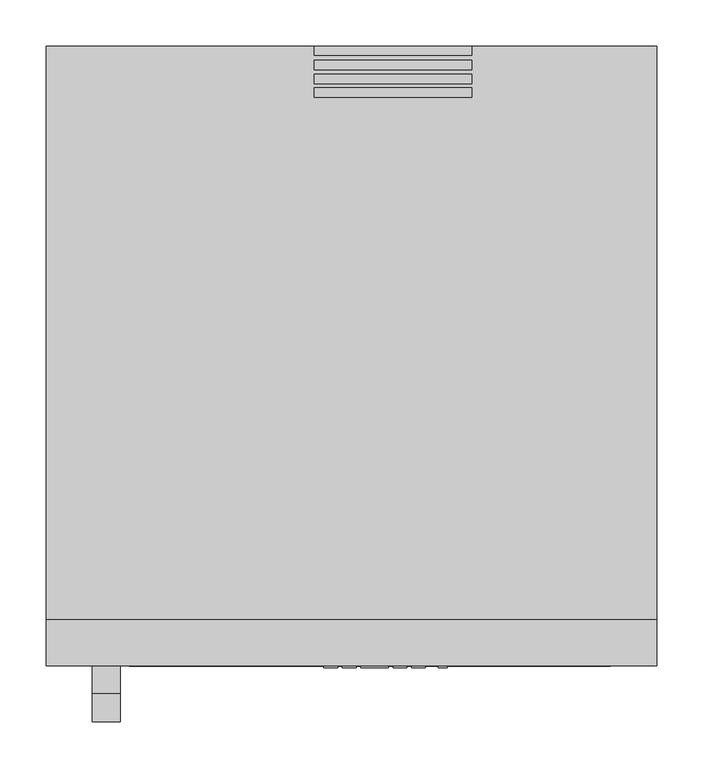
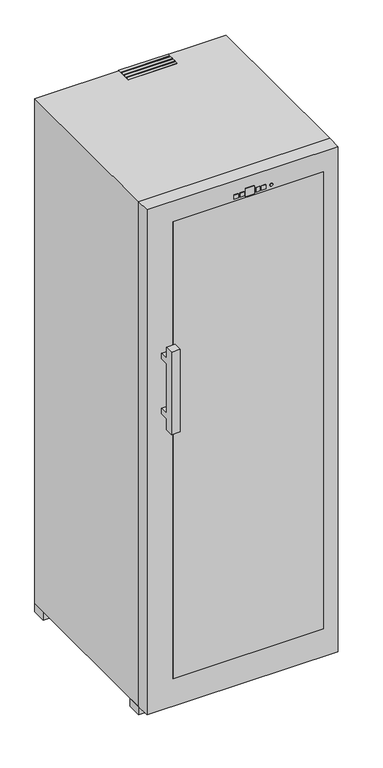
"""IFC4 building model written with IfcOpenShell, lengths in millimetres: proxy geometry, WKb : WKb 4611."""

import ifcopenshell
import ifcopenshell.guid

model = None  # the IFC model being written
_history = None  # IfcOwnerHistory: only IFC2X3 demands one
_inside = {}  # id of a spatial element -> (the spatial element, [elements in it])
_under = {}  # id of a project, library or spatial element -> (it, [spatial elements below it])
_declared = {}  # id of a project -> (the project, [libraries it declares])
_typed = {}  # id of a type object -> (the type object, [elements of that type])
_made_of = {}  # id of a material, layer set ... -> (it, [elements and type objects made of it])


def new_model(schema):
    """Start an empty IFC model of exactly this schema.

    Asked for "IFC4X3", IfcOpenShell would pick the latest addendum, in which some entities
    have other attributes; the version numbers below select the first issue.
    IFC2X3 requires an IfcOwnerHistory on every rooted entity: one is made here for all.
    """
    global model, _history
    if schema == "IFC4X3":
        model = ifcopenshell.file(schema_version=(4, 3, 0, 0))
    else:
        model = ifcopenshell.file(schema=schema)
    _inside.clear()
    _under.clear()
    _declared.clear()
    _typed.clear()
    _made_of.clear()
    _history = None
    if model.schema == "IFC2X3":
        org = make("IfcOrganization", Name="unknown")
        user = make(
            "IfcPersonAndOrganization",
            ThePerson=make("IfcPerson", FamilyName="unknown"),
            TheOrganization=org,
        )
        app = make(
            "IfcApplication",
            ApplicationDeveloper=org,
            Version="unknown",
            ApplicationFullName="unknown",
            ApplicationIdentifier="unknown",
        )
        _history = make(
            "IfcOwnerHistory",
            OwningUser=user,
            OwningApplication=app,
            ChangeAction="ADDED",
            CreationDate=0,
        )
    return model


def make(cls, **values):
    """One entity of the class cls with the attributes given. An attribute that is None is left unset."""
    return model.create_entity(
        cls, **{name: value for name, value in values.items() if value is not None}
    )


def rooted(cls, **values):
    """An entity with a GlobalId (a new one), such as an element, a storey or a relation."""
    return make(cls, GlobalId=ifcopenshell.guid.new(), OwnerHistory=_history, **values)


def si_unit(unit_type, name, prefix=None):
    """IfcSIUnit, for example si_unit("LENGTHUNIT", "METRE", prefix="MILLI")."""
    return make("IfcSIUnit", UnitType=unit_type, Prefix=prefix, Name=name)


def assignment(units):
    """IfcUnitAssignment: the units of a project."""
    return None if units is None else make("IfcUnitAssignment", Units=units)


def point(xyz):
    """IfcCartesianPoint."""
    return None if xyz is None else make("IfcCartesianPoint", Coordinates=xyz)


def direction(xyz):
    """IfcDirection."""
    return None if xyz is None else make("IfcDirection", DirectionRatios=xyz)


def frame(location, z_axis=None, x_axis=None):
    """IfcAxis2Placement3D, a coordinate frame: its origin and axes. An axis left out is left unset."""
    return make(
        "IfcAxis2Placement3D",
        Location=point(location),
        Axis=direction(z_axis),
        RefDirection=direction(x_axis),
    )


def frame_2d(location, x_axis=None):
    """IfcAxis2Placement2D, a coordinate frame in the plane: its origin and x axis."""
    return make(
        "IfcAxis2Placement2D", Location=point(location), RefDirection=direction(x_axis)
    )


def origin():
    """The frame at (0, 0, 0) with its axes left unset."""
    return frame((0.0, 0.0, 0.0))


def place(relative_to, where):
    """IfcLocalPlacement: puts the frame where relative to a parent placement (None: the world)."""
    return make(
        "IfcLocalPlacement", PlacementRelTo=relative_to, RelativePlacement=where
    )


def context(
    kind, dimensions, precision=None, world=None, true_north=None, identifier=None
):
    """IfcGeometricRepresentationContext, for example the 3D "Model" context."""
    return make(
        "IfcGeometricRepresentationContext",
        ContextIdentifier=identifier,
        ContextType=kind,
        CoordinateSpaceDimension=dimensions,
        Precision=precision,
        WorldCoordinateSystem=world,
        TrueNorth=true_north,
    )


def project(units=None, contexts=None):
    """IfcProject with its units and contexts."""
    return rooted(
        "IfcProject",
        Name="project",
        RepresentationContexts=contexts,
        UnitsInContext=assignment(units),
    )


def spatial(cls, under=None, at=None, **own):
    """A site, building, storey or space (cls), placed at a placement, below another one or the project."""
    s = rooted(cls, ObjectPlacement=at, **own)
    if under is not None:
        _under.setdefault(under.id(), (under, []))[1].append(s)
    return s


def polyline(points):
    """IfcPolyline through the points."""
    return make("IfcPolyline", Points=[point(p) for p in points])


def circle_curve(where, radius):
    """IfcCircle in the frame where."""
    return make("IfcCircle", Position=where, Radius=radius)


def trimmed(basis, trim1, trim2, sense, master):
    """IfcTrimmedCurve: the piece of a basis curve between two trims."""
    return make(
        "IfcTrimmedCurve",
        BasisCurve=basis,
        Trim1=trim1,
        Trim2=trim2,
        SenseAgreement=sense,
        MasterRepresentation=master,
    )


def segment(curve, same_sense, transition):
    """IfcCompositeCurveSegment."""
    return make(
        "IfcCompositeCurveSegment",
        Transition=transition,
        SameSense=same_sense,
        ParentCurve=curve,
    )


def composite_curve(segments, self_intersect=None):
    """IfcCompositeCurve: segments joined end to end."""
    return make("IfcCompositeCurve", Segments=segments, SelfIntersect=self_intersect)


def outline(outer, holes=None, kind="AREA"):
    """IfcArbitraryClosedProfileDef: a profile drawn as a closed curve; with holes, ...WithVoids."""
    if holes is None:
        return make("IfcArbitraryClosedProfileDef", ProfileType=kind, OuterCurve=outer)
    return make(
        "IfcArbitraryProfileDefWithVoids",
        ProfileType=kind,
        OuterCurve=outer,
        InnerCurves=holes,
    )


def extrude(swept, where, along, depth):
    """IfcExtrudedAreaSolid: the profile swept, set in the frame where, extruded along a direction by depth."""
    return make(
        "IfcExtrudedAreaSolid",
        SweptArea=swept,
        Position=where,
        ExtrudedDirection=direction(along),
        Depth=depth,
    )


def faces_of(points, faces, orient=None, outer=None):
    """IfcFace entities. A face is a list of loops; a loop is a list of indices into points, from 0.

    orient and outer hold one flag for each loop. By default every Orientation is true, the
    first loop of a face is its IfcFaceOuterBound and the others are IfcFaceBound.
    """
    made = []
    for i, loops in enumerate(faces):
        bounds = []
        for j, loop in enumerate(loops):
            is_outer = j == 0 if outer is None else outer[i][j]
            bounds.append(
                make(
                    "IfcFaceOuterBound" if is_outer else "IfcFaceBound",
                    Bound=make("IfcPolyLoop", Polygon=[points[k] for k in loop]),
                    Orientation=True if orient is None else orient[i][j],
                )
            )
        made.append(make("IfcFace", Bounds=bounds))
    return made


def faceted_brep(points, faces, orient=None, outer=None, voids=None):
    """IfcFacetedBrep: a solid bounded by flat faces; with voids (closed shells), ...WithVoids."""
    shared = [point(p) for p in points]
    hull = make("IfcClosedShell", CfsFaces=faces_of(shared, faces, orient, outer))
    if voids is None:
        return make("IfcFacetedBrep", Outer=hull)
    return make(
        "IfcFacetedBrepWithVoids",
        Outer=hull,
        Voids=[
            make(cls, CfsFaces=faces_of(shared, fs, o, b)) for cls, fs, o, b in voids
        ],
    )


def shape(context_of_items, identifier, shape_type, items):
    """IfcShapeRepresentation: the items that make up one representation, for example the "Body"."""
    return make(
        "IfcShapeRepresentation",
        ContextOfItems=context_of_items,
        RepresentationIdentifier=identifier,
        RepresentationType=shape_type,
        Items=items,
    )


def source(mapping_origin, context_of_items, identifier, shape_type, items):
    """IfcRepresentationMap: a shape defined once, which mapped items show again and again."""
    return make(
        "IfcRepresentationMap",
        MappingOrigin=mapping_origin,
        MappedRepresentation=shape(context_of_items, identifier, shape_type, items),
    )


def transform(
    local_origin,
    x_axis=None,
    y_axis=None,
    z_axis=None,
    scale=None,
    scale2=None,
    scale3=None,
    uniform=True,
):
    """IfcCartesianTransformationOperator3D, or its non-uniform kind. x_axis, y_axis, z_axis: its Axis1, 2, 3."""
    if uniform:
        return make(
            "IfcCartesianTransformationOperator3D",
            Axis1=direction(x_axis),
            Axis2=direction(y_axis),
            LocalOrigin=point(local_origin),
            Scale=scale,
            Axis3=direction(z_axis),
        )
    return make(
        "IfcCartesianTransformationOperator3DnonUniform",
        Axis1=direction(x_axis),
        Axis2=direction(y_axis),
        LocalOrigin=point(local_origin),
        Scale=scale,
        Axis3=direction(z_axis),
        Scale2=scale2,
        Scale3=scale3,
    )


def mapped(mapping_source, mapping_target):
    """IfcMappedItem: shows the shape of a source again, moved by a transform."""
    return make(
        "IfcMappedItem", MappingSource=mapping_source, MappingTarget=mapping_target
    )


def made_of(thing, what):
    """Note that an element or type object is made of a material, layer set ...; save() writes the relation."""
    if what is not None:
        _made_of.setdefault(what.id(), (what, []))[1].append(thing)
    return thing


def element(
    cls,
    number,
    at=None,
    inside=None,
    cuts=None,
    type_object=None,
    material=None,
    context=None,
    identifier="Body",
    shape_type=None,
    held_by="IfcProductDefinitionShape",
    body=None,
    shapes=None,
    **own,
):
    """One element of the class cls, such as IfcWall. Its Tag is "e" and its number.

    at: its placement. inside: the storey or other place that contains it. cuts: it is an
    opening in that element (IfcRelVoidsElement). A single representation is given by context,
    identifier, shape_type and body (its items); several are given by shapes. held_by: the class
    of the entity that holds the representations. save() writes the other relations.
    """
    e = rooted(cls, Tag="e%d" % number, ObjectPlacement=at, **own)
    if body is not None:
        shapes = [shape(context, identifier, shape_type, body)]
    if shapes is not None:
        e.Representation = make(held_by, Representations=shapes)
    if inside is not None:
        _inside.setdefault(inside.id(), (inside, []))[1].append(e)
    if cuts is not None:
        rooted(
            "IfcRelVoidsElement", RelatingBuildingElement=cuts, RelatedOpeningElement=e
        )
    if type_object is not None:
        _typed.setdefault(type_object.id(), (type_object, []))[1].append(e)
    return made_of(e, material)


def aggregate(whole, parts):
    """IfcRelAggregates: a whole, such as a stair, and the parts it consists of."""
    return rooted("IfcRelAggregates", RelatingObject=whole, RelatedObjects=parts)


def save(model, path):
    """Write the relations noted so far, then the file.

    IfcRelAggregates (storeys below a building ...), IfcRelContainedInSpatialStructure (elements
    in a storey), IfcRelDefinesByType, IfcRelAssociatesMaterial and IfcRelDeclares: one each for
    every whole, place, type object, material and project.
    """
    for whole, parts in _under.values():
        aggregate(whole, parts)
    for where, things in _inside.values():
        rooted(
            "IfcRelContainedInSpatialStructure",
            RelatedElements=things,
            RelatingStructure=where,
        )
    for kind, things in _typed.values():
        rooted("IfcRelDefinesByType", RelatedObjects=things, RelatingType=kind)
    for what, things in _made_of.values():
        rooted("IfcRelAssociatesMaterial", RelatedObjects=things, RelatingMaterial=what)
    for by, libraries in _declared.values():
        rooted("IfcRelDeclares", RelatingContext=by, RelatedDefinitions=libraries)
    model.write(path)


def specialty_equipment_f8f7294a(model_context):
    return source(origin(), model_context, "Body", "SolidModel", [
        extrude(outline(polyline([(-540.0, -29.8345306), (-540.0, -39.8345306), (-710.0, -39.8345306), (-710.0, -29.8345306), (-540.0, -29.8345306)])), frame((0.0, 0.0, 1216.8132517), z_axis=(0.0, 0.0, 1.0), x_axis=(1.0, 0.0, 0.0)), (0.0, 0.0, 1.0), 1.0318985),
        extrude(outline(polyline([(-540.0, -45.1511593), (-540.0, -55.1511593), (-710.0, -55.1511593), (-710.0, -45.1511593), (-540.0, -45.1511593)])), frame((0.0, 0.0, 1216.8132517), z_axis=(0.0, 0.0, 1.0), x_axis=(1.0, 0.0, 0.0)), (0.0, 0.0, 1.0), 1.0318985),
        extrude(outline(polyline([(-540.0, -60.1400497), (-540.0, -70.1400497), (-710.0, -70.1400497), (-710.0, -60.1400497), (-540.0, -60.1400497)])), frame((0.0, 0.0, 1216.8132517), z_axis=(0.0, 0.0, 1.0), x_axis=(1.0, 0.0, 0.0)), (0.0, 0.0, 1.0), 1.0318985),
        extrude(outline(polyline([(-540.0, -74.8345306), (-540.0, -84.8345306), (-710.0, -84.8345306), (-710.0, -74.8345306), (-540.0, -74.8345306)])), frame((0.0, 0.0, 1216.8132517), z_axis=(0.0, 0.0, 1.0), x_axis=(1.0, 0.0, 0.0)), (0.0, 0.0, 1.0), 1.0318985),
        extrude(outline(polyline([(-630.0, -701.7817027), (-660.0, -701.7817027), (-660.0, -699.8345306), (-630.0, -699.8345306), (-630.0, -701.7817027)])), frame((0.0, 0.0, 1146.8132517), z_axis=(0.0, 0.0, 1.0), x_axis=(1.0, 0.0, 0.0)), (0.0, 0.0, 1.0), 30.0),
        extrude(outline(polyline([(-665.0, -701.7817027), (-680.0, -701.7817027), (-680.0, -699.8345306), (-665.0, -699.8345306), (-665.0, -701.7817027)])), frame((0.0, 0.0, 1152.245761), z_axis=(0.0, 0.0, 1.0), x_axis=(1.0, 0.0, 0.0)), (0.0, 0.0, 1.0), 15.0),
        extrude(outline(polyline([(-685.0, -701.7817027), (-700.0, -701.7817027), (-700.0, -699.8345306), (-685.0, -699.8345306), (-685.0, -701.7817027)])), frame((0.0, 0.0, 1152.245761), z_axis=(0.0, 0.0, 1.0), x_axis=(1.0, 0.0, 0.0)), (0.0, 0.0, 1.0), 15.0),
        extrude(outline(polyline([(-610.0, -701.7817027), (-625.0, -701.7817027), (-625.0, -699.8345306), (-610.0, -699.8345306), (-610.0, -701.7817027)])), frame((0.0, 0.0, 1152.245761), z_axis=(0.0, 0.0, 1.0), x_axis=(1.0, 0.0, 0.0)), (0.0, 0.0, 1.0), 15.0),
        extrude(outline(polyline([(-590.0, -701.7817027), (-605.0, -701.7817027), (-605.0, -699.8345306), (-590.0, -699.8345306), (-590.0, -701.7817027)])), frame((0.0, 0.0, 1152.245761), z_axis=(0.0, 0.0, 1.0), x_axis=(1.0, 0.0, 0.0)), (0.0, 0.0, 1.0), 15.0),
        extrude(outline(composite_curve([segment(trimmed(circle_curve(frame_2d((1159.745761, -571.25)), 5.0), [point((1159.745761, -576.25))], [point((1159.745761, -566.25))], False, "CARTESIAN"), True, "CONTINUOUS"), segment(trimmed(circle_curve(frame_2d((1159.745761, -571.25)), 5.0), [point((1159.745761, -566.25))], [point((1159.745761, -576.25))], False, "CARTESIAN"), True, "CONTINUOUS")], self_intersect=False)), frame((0.0, -701.7817027, 0.0), z_axis=(0.0, 1.0, 0.0), x_axis=(0.0, 0.0, 1.0)), (0.0, 0.0, 1.0), 1.947172),
        extrude(outline(polyline([(-390.0, -699.8345306), (-910.0, -699.8345306), (-910.0, -649.8345306), (-390.0, -649.8345306), (-390.0, -699.8345306)])), frame((0.0, 0.0, -524.1867483), z_axis=(0.0, 0.0, 1.0), x_axis=(1.0, 0.0, 0.0)), (0.0, 0.0, 1.0), 1666.0),
        extrude(outline(polyline([(1216.8132517, -340.0), (1216.8132517, -1000.0), (-624.1867483, -1000.0), (-624.1867483, -340.0), (1216.8132517, -340.0)]), holes=[polyline([(1141.8132517, -910.0), (1141.8132517, -390.0), (-524.1867483, -390.0), (-524.1867483, -910.0), (1141.8132517, -910.0)])]), frame((0.0, -699.8345306, 0.0), z_axis=(0.0, 1.0, 0.0), x_axis=(0.0, 0.0, 1.0)), (0.0, 0.0, 1.0), 50.0),
        faceted_brep([(-340.0, -649.8345306, 1216.8132517), (-1000.0, -649.8345306, 1216.8132517), (-1000.0, -649.8345306, -624.1867483), (-340.0, -649.8345306, -624.1867483), (-910.0, -649.8345306, 1141.8132517), (-390.0, -649.8345306, 1141.8132517), (-390.0, -649.8345306, -524.1867483), (-910.0, -649.8345306, -524.1867483), (-340.0, -29.8345306, 1216.8132517), (-340.0, -29.8345306, -624.1867483), (-1000.0, -29.8345306, -624.1867483), (-1000.0, -29.8345306, 1216.8132517), (-390.0, -79.8345306, 1141.8132517), (-910.0, -79.8345306, 1141.8132517), (-910.0, -79.8345306, -524.1867483), (-390.0, -79.8345306, -524.1867483)], [[[0, 1, 2, 3], [4, 5, 6, 7]], [[8, 9, 10, 11]], [[1, 0, 8, 11]], [[2, 1, 11, 10]], [[3, 2, 10, 9]], [[0, 3, 9, 8]], [[12, 13, 14, 15]], [[13, 12, 5, 4]], [[14, 13, 4, 7]], [[15, 14, 7, 6]], [[12, 15, 6, 5]]]),
        extrude(outline(polyline([(-340.0, -599.8345306), (-340.0, -649.8345306), (-390.0, -649.8345306), (-390.0, -599.8345306), (-340.0, -599.8345306)])), frame((0.0, 0.0, -654.1867483), z_axis=(0.0, 0.0, 1.0), x_axis=(1.0, 0.0, 0.0)), (0.0, 0.0, 1.0), 30.0),
        extrude(outline(polyline([(-340.0, -29.8345306), (-340.0, -79.8345306), (-390.0, -79.8345306), (-390.0, -29.8345306), (-340.0, -29.8345306)])), frame((0.0, 0.0, -654.1867483), z_axis=(0.0, 0.0, 1.0), x_axis=(1.0, 0.0, 0.0)), (0.0, 0.0, 1.0), 30.0),
        extrude(outline(polyline([(-950.0, -29.8345306), (-950.0, -79.8345306), (-1000.0, -79.8345306), (-1000.0, -29.8345306), (-950.0, -29.8345306)])), frame((0.0, 0.0, -654.1867483), z_axis=(0.0, 0.0, 1.0), x_axis=(1.0, 0.0, 0.0)), (0.0, 0.0, 1.0), 30.0),
        extrude(outline(polyline([(-950.0, -599.8345306), (-950.0, -649.8345306), (-1000.0, -649.8345306), (-1000.0, -599.8345306), (-950.0, -599.8345306)])), frame((0.0, 0.0, -654.1867483), z_axis=(0.0, 0.0, 1.0), x_axis=(1.0, 0.0, 0.0)), (0.0, 0.0, 1.0), 30.0),
        extrude(outline(polyline([(-729.8345306, 676.8132517), (-699.8345306, 676.8132517), (-699.8345306, 656.8132517), (-729.8345306, 656.8132517), (-729.8345306, 476.8132517), (-699.8345306, 476.8132517), (-699.8345306, 456.8132517), (-729.8345306, 456.8132517), (-729.8345306, 416.8132517), (-759.8345306, 416.8132517), (-759.8345306, 716.8132517), (-729.8345306, 716.8132517), (-729.8345306, 676.8132517)])), frame((-950.0, 0.0, 0.0), z_axis=(1.0, 0.0, 0.0), x_axis=(0.0, 1.0, 0.0)), (0.0, 0.0, 1.0), 30.0),
    ])


if __name__ == "__main__":
    model = new_model("IFC4")
    model_context = context("Model", 3, world=origin())
    ifc_project = project(units=[si_unit("LENGTHUNIT", "METRE", prefix="MILLI")], contexts=[model_context])
    site = spatial("IfcSite", under=ifc_project)
    building = spatial("IfcBuilding", under=site)
    placement = place(None, origin())
    specialty_equipment_shape = specialty_equipment_f8f7294a(model_context)
    element("IfcBuildingElementProxy", 1, Name="WKb : WKb 4611", ObjectType="WKb : WKb 4611", at=placement, inside=building, context=model_context, shape_type="MappedRepresentation", body=[
        mapped(specialty_equipment_shape, transform((0.0, 0.0, 0.0), x_axis=(1.0, 0.0, 0.0), y_axis=(0.0, 1.0, 0.0), z_axis=(0.0, 0.0, 1.0))),
    ])
    save(model, "model.ifc")
